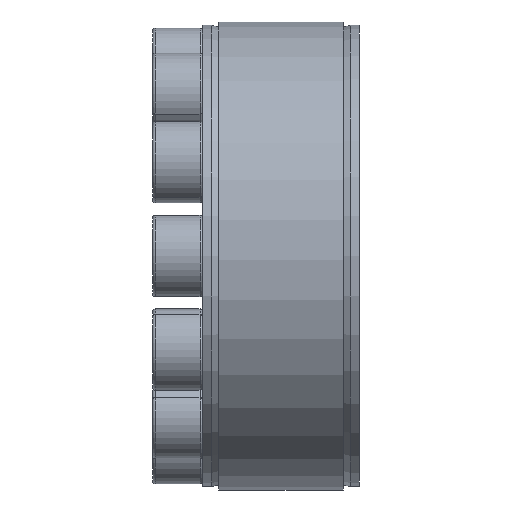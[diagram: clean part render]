
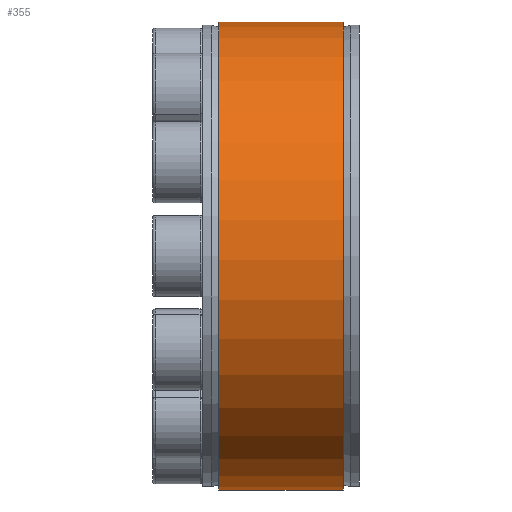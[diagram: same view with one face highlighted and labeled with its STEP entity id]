
A CAD part, front view. The second image highlights one B-rep face of the part: STEP entity #355.
In plain terms, the highlighted cylindrical face has radius 37.5 mm (diameter 75 mm), a partial arc.
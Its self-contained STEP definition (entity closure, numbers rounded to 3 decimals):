
#189 = VECTOR ( 'NONE', #3130, 1000. ) ;
#355 = ADVANCED_FACE ( 'NONE', ( #6610 ), #7328, .T. ) ;
#602 = ORIENTED_EDGE ( 'NONE', *, *, #8260, .T. ) ;
#693 = ORIENTED_EDGE ( 'NONE', *, *, #4361, .T. ) ;
#798 = DIRECTION ( 'NONE',  ( 0., 0., 1. ) ) ;
#841 = DIRECTION ( 'NONE',  ( -1., 0., 0. ) ) ;
#860 = CARTESIAN_POINT ( 'NONE',  ( 10., 0., 0. ) ) ;
#916 = LINE ( 'NONE', #5443, #6377 ) ;
#948 = ORIENTED_EDGE ( 'NONE', *, *, #8015, .T. ) ;
#1232 = VERTEX_POINT ( 'NONE', #6462 ) ;
#1234 = CARTESIAN_POINT ( 'NONE',  ( -10., 1.25, 37.479 ) ) ;
#2243 = VERTEX_POINT ( 'NONE', #1234 ) ;
#2495 = CARTESIAN_POINT ( 'NONE',  ( -13.426, 1.25, 37.479 ) ) ;
#2704 = EDGE_CURVE ( 'NONE', #2243, #8686, #4953, .T. ) ;
#3130 = DIRECTION ( 'NONE',  ( 1., 0., 0. ) ) ;
#3440 = ORIENTED_EDGE ( 'NONE', *, *, #2704, .F. ) ;
#3758 = CARTESIAN_POINT ( 'NONE',  ( -10., -1.25, 37.479 ) ) ;
#4104 = LINE ( 'NONE', #2495, #189 ) ;
#4140 = EDGE_LOOP ( 'NONE', ( #3440, #948, #602, #693 ) ) ;
#4224 = VERTEX_POINT ( 'NONE', #7276 ) ;
#4361 = EDGE_CURVE ( 'NONE', #1232, #8686, #916, .T. ) ;
#4634 = AXIS2_PLACEMENT_3D ( 'NONE', #7634, #7632, #7626 ) ;
#4953 = CIRCLE ( 'NONE', #4634, 37.5 ) ;
#5223 = DIRECTION ( 'NONE',  ( -1., 0., 0. ) ) ;
#5382 = AXIS2_PLACEMENT_3D ( 'NONE', #6719, #6711, #6681 ) ;
#5443 = CARTESIAN_POINT ( 'NONE',  ( -13.426, -1.25, 37.479 ) ) ;
#6377 = VECTOR ( 'NONE', #5223, 1000. ) ;
#6462 = CARTESIAN_POINT ( 'NONE',  ( 10., -1.25, 37.479 ) ) ;
#6513 = AXIS2_PLACEMENT_3D ( 'NONE', #860, #841, #798 ) ;
#6610 = FACE_OUTER_BOUND ( 'NONE', #4140, .T. ) ;
#6681 = DIRECTION ( 'NONE',  ( 0., 0., 1. ) ) ;
#6711 = DIRECTION ( 'NONE',  ( -1., 0., 0. ) ) ;
#6719 = CARTESIAN_POINT ( 'NONE',  ( -13.426, 0., 0. ) ) ;
#7276 = CARTESIAN_POINT ( 'NONE',  ( 10., 1.25, 37.479 ) ) ;
#7328 = CYLINDRICAL_SURFACE ( 'NONE', #5382, 37.5 ) ;
#7626 = DIRECTION ( 'NONE',  ( 0., 0., 1. ) ) ;
#7632 = DIRECTION ( 'NONE',  ( -1., 0., 0. ) ) ;
#7634 = CARTESIAN_POINT ( 'NONE',  ( -10., 0., 0. ) ) ;
#7938 = CIRCLE ( 'NONE', #6513, 37.5 ) ;
#8015 = EDGE_CURVE ( 'NONE', #2243, #4224, #4104, .T. ) ;
#8260 = EDGE_CURVE ( 'NONE', #4224, #1232, #7938, .T. ) ;
#8686 = VERTEX_POINT ( 'NONE', #3758 ) ;
